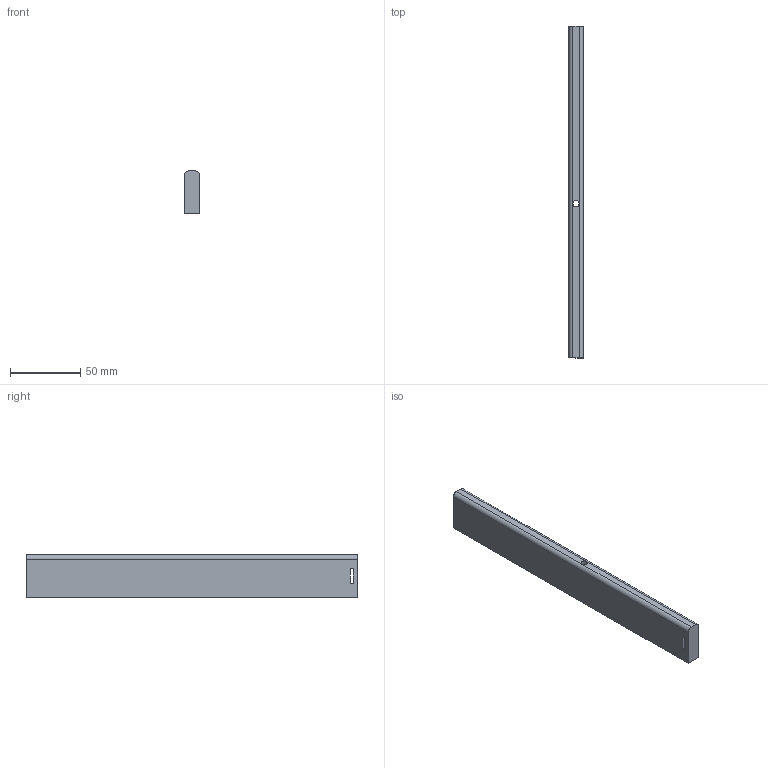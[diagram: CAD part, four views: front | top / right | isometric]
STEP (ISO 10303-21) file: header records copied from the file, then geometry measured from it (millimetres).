
FILE_DESCRIPTION (( 'STEP AP214' ), '1' );
FILE_NAME ('_Seitenreling_S760609500_RL235,5.step', '2010-09-06T14:51:30', ( 'grass' ), ( '' ), 'SwSTEP 2.0', 'SolidWorks 2010', '' );
FILE_SCHEMA (( 'AUTOMOTIVE_DESIGN' ));
Length unit declared in the file: millimetre
Products named in the file (1): _Seitenreling_S760609500_RL235,5
Bounding box: 10.5 x 235.5 x 30 mm (x, y, z)
Volume: 71886.8 mm3; surface area: 19944.6 mm2
Topology: 1 solids, 1 shells, 23 faces, 56 edges, 36 vertices
Faces by surface type: plane 15, cylinder 8
Entity records: 716 total; most frequent: DIRECTION 120, CARTESIAN_POINT 116, ORIENTED_EDGE 112, EDGE_CURVE 56, LINE 40, VECTOR 40, AXIS2_PLACEMENT_3D 40, VERTEX_POINT 36
